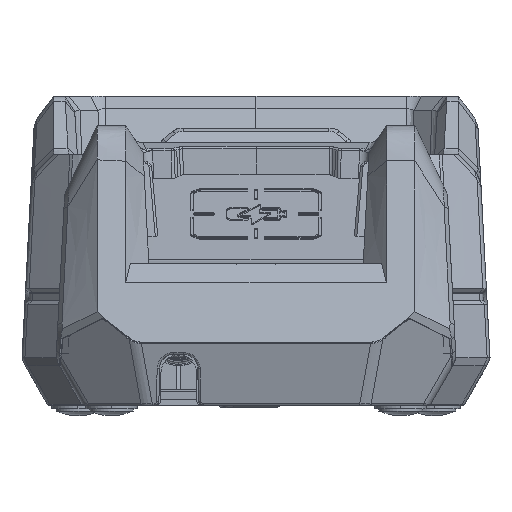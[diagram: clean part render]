
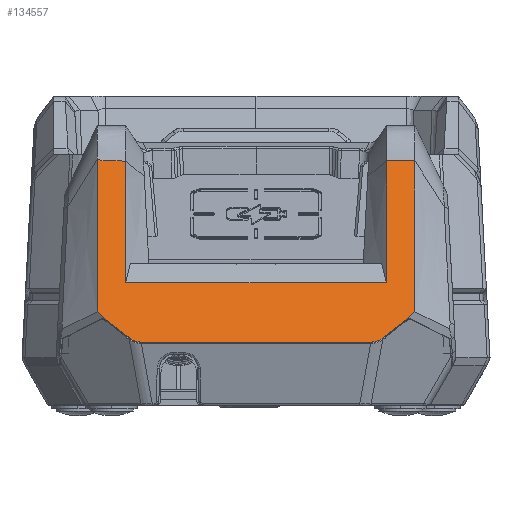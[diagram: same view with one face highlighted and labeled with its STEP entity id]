
A CAD part, front view. The second image highlights one B-rep face of the part: STEP entity #134557.
In plain terms, the highlighted planar face has unit normal (0, -0.94, 0.342).
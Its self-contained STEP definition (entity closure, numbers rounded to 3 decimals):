
#32159=CARTESIAN_POINT('',(27.596,-157.545,
-63.705));
#32160=CARTESIAN_POINT('',(27.597,-156.49,
-60.807));
#32161=CARTESIAN_POINT('',(27.597,-154.388,
-55.033));
#32162=CARTESIAN_POINT('',(27.597,-151.26,
-46.44));
#32163=CARTESIAN_POINT('',(27.596,-149.19,
-40.755));
#32164=CARTESIAN_POINT('',(27.597,-148.16,
-37.924));
#34892=CARTESIAN_POINT('',(-27.595,-148.18,
-37.978));
#34893=CARTESIAN_POINT('',(-27.594,-149.209,
-40.806));
#34894=CARTESIAN_POINT('',(-27.594,-151.275,
-46.482));
#34895=CARTESIAN_POINT('',(-27.594,-154.397,
-55.057));
#34896=CARTESIAN_POINT('',(-27.593,-156.493,
-60.816));
#34897=CARTESIAN_POINT('',(-27.593,-157.545,
-63.705));
#34903=CARTESIAN_POINT('',(27.596,-157.545,
-63.705));
#34915=CARTESIAN_POINT('',(-27.593,-157.545,
-63.705));
#34921=DIRECTION('',(0.771,-0.218,-0.598));
#34922=VECTOR('',#34921,7.213);
#34923=CARTESIAN_POINT('',(-32.205,-160.24,
-71.108));
#34924=LINE('',#34923,#34922);
#34925=DIRECTION('',(0.719,-0.238,-0.653));
#34926=VECTOR('',#34925,1.934);
#34927=CARTESIAN_POINT('',(-33.595,-159.78,
-69.844));
#34928=LINE('',#34927,#34926);
#34929=CARTESIAN_POINT('',(-33.594,-148.023,
-37.549));
#34930=CARTESIAN_POINT('',(-33.594,-148.637,
-39.233));
#34931=CARTESIAN_POINT('',(-33.595,-149.812,
-42.462));
#34932=CARTESIAN_POINT('',(-33.595,-151.413,
-46.86));
#34933=CARTESIAN_POINT('',(-33.595,-152.88,
-50.889));
#34934=CARTESIAN_POINT('',(-33.595,-154.257,
-54.673));
#34935=CARTESIAN_POINT('',(-33.595,-155.593,
-58.342));
#34936=CARTESIAN_POINT('',(-33.595,-156.931,
-62.018));
#34937=CARTESIAN_POINT('',(-33.595,-158.316,
-65.824));
#34938=CARTESIAN_POINT('',(-33.595,-159.285,
-68.486));
#34939=CARTESIAN_POINT('',(-33.595,-159.78,
-69.844));
#34941=DIRECTION('',(-1.,0.,0.));
#34942=VECTOR('',#34941,55.189);
#34943=CARTESIAN_POINT('',(27.596,-157.545,
-63.705));
#34944=LINE('',#34943,#34942);
#34945=DIRECTION('',(-1.,0.,0.));
#34946=VECTOR('',#34945,5.998);
#34947=CARTESIAN_POINT('',(33.595,-148.16,
-37.924));
#34948=LINE('',#34947,#34946);
#34949=CARTESIAN_POINT('',(33.595,-159.779,
-69.843));
#34950=CARTESIAN_POINT('',(33.595,-159.289,
-68.497));
#34951=CARTESIAN_POINT('',(33.595,-158.329,
-65.859));
#34952=CARTESIAN_POINT('',(33.595,-156.956,
-62.087));
#34953=CARTESIAN_POINT('',(33.595,-155.63,
-58.443));
#34954=CARTESIAN_POINT('',(33.595,-154.307,
-54.81));
#34955=CARTESIAN_POINT('',(33.595,-152.945,
-51.068));
#34956=CARTESIAN_POINT('',(33.595,-151.497,
-47.091));
#34957=CARTESIAN_POINT('',(33.595,-149.92,
-42.76));
#34958=CARTESIAN_POINT('',(33.595,-148.763,
-39.581));
#34959=CARTESIAN_POINT('',(33.595,-148.16,
-37.924));
#34961=DIRECTION('',(0.771,0.218,0.598));
#34962=VECTOR('',#34961,7.207);
#34963=CARTESIAN_POINT('',(26.646,-161.811,
-75.425));
#34964=LINE('',#34963,#34962);
#34965=CARTESIAN_POINT('',(24.283,-162.112,
-76.251));
#34966=CARTESIAN_POINT('',(25.176,-162.112,
-76.251));
#34967=CARTESIAN_POINT('',(25.958,-162.006,
-75.959));
#34968=CARTESIAN_POINT('',(26.646,-161.811,
-75.425));
#34970=DIRECTION('',(1.,0.,0.));
#34971=VECTOR('',#34970,48.564);
#34972=CARTESIAN_POINT('',(-24.281,-162.112,
-76.251));
#34973=LINE('',#34972,#34971);
#35183=CARTESIAN_POINT('',(-24.281,-162.112,
-76.251));
#35184=CARTESIAN_POINT('',(-25.174,-162.112,
-76.251));
#35185=CARTESIAN_POINT('',(-25.956,-162.006,
-75.959));
#35186=CARTESIAN_POINT('',(-26.644,-161.811,
-75.425));
#35192=CARTESIAN_POINT('',(-33.594,-148.023,
-37.549));
#35193=CARTESIAN_POINT('',(-33.331,-148.07,
-37.676));
#35194=CARTESIAN_POINT('',(-32.822,-148.14,
-37.871));
#35195=CARTESIAN_POINT('',(-31.666,-148.166,
-37.941));
#35196=CARTESIAN_POINT('',(-31.45,-148.158,
-37.919));
#35197=CARTESIAN_POINT('',(-30.126,-148.161,
-37.926));
#35198=CARTESIAN_POINT('',(-29.61,-148.16,
-37.923));
#35199=CARTESIAN_POINT('',(-29.118,-148.159,
-37.921));
#35200=CARTESIAN_POINT('',(-28.171,-148.171,
-37.955));
#35201=CARTESIAN_POINT('',(-27.595,-148.18,
-37.978));
#35403=DIRECTION('',(-0.718,-0.238,-0.654));
#35404=VECTOR('',#35403,1.94);
#35405=CARTESIAN_POINT('',(33.595,-159.779,
-69.843));
#35406=LINE('',#35405,#35404);
#65448=VERTEX_POINT('',#34903);
#65449=VERTEX_POINT('',#34915);
#65450=VERTEX_POINT('',#34892);
#65451=VERTEX_POINT('',#35192);
#65452=VERTEX_POINT('',#34939);
#65453=CARTESIAN_POINT('',(-32.205,-160.24,
-71.108));
#65454=VERTEX_POINT('',#65453);
#65455=CARTESIAN_POINT('',(-26.644,-161.811,
-75.425));
#65456=VERTEX_POINT('',#65455);
#65457=VERTEX_POINT('',#35183);
#65458=VERTEX_POINT('',#34965);
#65459=VERTEX_POINT('',#34968);
#65460=CARTESIAN_POINT('',(32.202,-160.241,
-71.112));
#65461=VERTEX_POINT('',#65460);
#65462=CARTESIAN_POINT('',(33.595,-159.779,
-69.843));
#65463=VERTEX_POINT('',#65462);
#65464=VERTEX_POINT('',#34959);
#65465=CARTESIAN_POINT('',(27.597,-148.16,
-37.924));
#65466=VERTEX_POINT('',#65465);
#134528=CARTESIAN_POINT('',(0.,-148.16,
-37.924));
#134529=DIRECTION('',(0.,-0.94,0.342));
#134530=DIRECTION('',(0.,-0.342,-0.94));
#134531=AXIS2_PLACEMENT_3D('',#134528,#134529,#134530);
#134532=PLANE('',#134531);
#134534=ORIENTED_EDGE('',*,*,#134533,.F.);
#134536=ORIENTED_EDGE('',*,*,#134535,.T.);
#134537=ORIENTED_EDGE('',*,*,#129540,.F.);
#134539=ORIENTED_EDGE('',*,*,#134538,.F.);
#134540=ORIENTED_EDGE('',*,*,#119205,.F.);
#134542=ORIENTED_EDGE('',*,*,#134541,.T.);
#134543=ORIENTED_EDGE('',*,*,#134508,.T.);
#134544=ORIENTED_EDGE('',*,*,#134521,.F.);
#134545=ORIENTED_EDGE('',*,*,#130861,.T.);
#134547=ORIENTED_EDGE('',*,*,#134546,.F.);
#134549=ORIENTED_EDGE('',*,*,#134548,.F.);
#134551=ORIENTED_EDGE('',*,*,#134550,.T.);
#134552=ORIENTED_EDGE('',*,*,#129258,.F.);
#134554=ORIENTED_EDGE('',*,*,#134553,.F.);
#134555=EDGE_LOOP('',(#134534,#134536,#134537,#134539,#134540,#134542,#134543,
#134544,#134545,#134547,#134549,#134551,#134552,#134554));
#134556=FACE_OUTER_BOUND('',#134555,.F.);
#134557=ADVANCED_FACE('',(#134556),#134532,.T.);
#32165=B_SPLINE_CURVE_WITH_KNOTS('',3,(#32159,#32160,#32161,#32162,#32163,
#32164),.UNSPECIFIED.,.F.,.F.,(4,1,1,4),(0.,0.333,
0.667,1.),.UNSPECIFIED.);
#34898=B_SPLINE_CURVE_WITH_KNOTS('',3,(#34892,#34893,#34894,#34895,#34896,
#34897),.UNSPECIFIED.,.F.,.F.,(4,1,1,4),(0.,0.333,
0.667,1.),.UNSPECIFIED.);
#34940=B_SPLINE_CURVE_WITH_KNOTS('',3,(#34929,#34930,#34931,#34932,#34933,
#34934,#34935,#34936,#34937,#34938,#34939),.UNSPECIFIED.,.F.,.F.,(4,1,1,1,1,1,1,
1,4),(0.,0.125,0.25,0.375,0.5,0.625,0.75,0.875,1.),
.UNSPECIFIED.);
#34960=B_SPLINE_CURVE_WITH_KNOTS('',3,(#34949,#34950,#34951,#34952,#34953,
#34954,#34955,#34956,#34957,#34958,#34959),.UNSPECIFIED.,.F.,.F.,(4,1,1,1,1,1,1,
1,4),(0.,0.125,0.25,0.375,0.5,0.625,0.75,0.875,1.),
.UNSPECIFIED.);
#34969=B_SPLINE_CURVE_WITH_KNOTS('',3,(#34965,#34966,#34967,#34968),
.UNSPECIFIED.,.F.,.F.,(4,4),(0.,1.),.UNSPECIFIED.);
#35187=B_SPLINE_CURVE_WITH_KNOTS('',3,(#35183,#35184,#35185,#35186),
.UNSPECIFIED.,.F.,.F.,(4,4),(0.,1.),.UNSPECIFIED.);
#35202=B_SPLINE_CURVE_WITH_KNOTS('',3,(#35192,#35193,#35194,#35195,#35196,
#35197,#35198,#35199,#35200,#35201),.UNSPECIFIED.,.F.,.F.,(4,1,1,1,1,1,1,4),(
0.,0.143,0.286,0.429,0.571,
0.714,0.857,1.),.UNSPECIFIED.);
#119205=EDGE_CURVE('',#65451,#65452,#34940,.T.);
#129258=EDGE_CURVE('',#65459,#65461,#34964,.T.);
#129540=EDGE_CURVE('',#65454,#65456,#34924,.T.);
#130861=EDGE_CURVE('',#65448,#65466,#32165,.T.);
#134508=EDGE_CURVE('',#65450,#65449,#34898,.T.);
#134521=EDGE_CURVE('',#65448,#65449,#34944,.T.);
#134533=EDGE_CURVE('',#65457,#65458,#34973,.T.);
#134535=EDGE_CURVE('',#65457,#65456,#35187,.T.);
#134538=EDGE_CURVE('',#65452,#65454,#34928,.T.);
#134541=EDGE_CURVE('',#65451,#65450,#35202,.T.);
#134546=EDGE_CURVE('',#65464,#65466,#34948,.T.);
#134548=EDGE_CURVE('',#65463,#65464,#34960,.T.);
#134550=EDGE_CURVE('',#65463,#65461,#35406,.T.);
#134553=EDGE_CURVE('',#65458,#65459,#34969,.T.);
